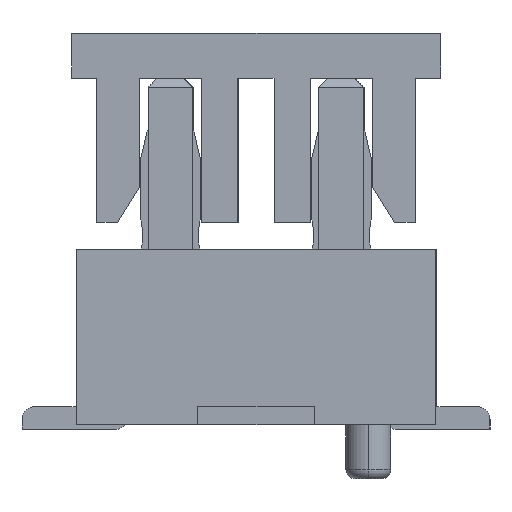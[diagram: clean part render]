
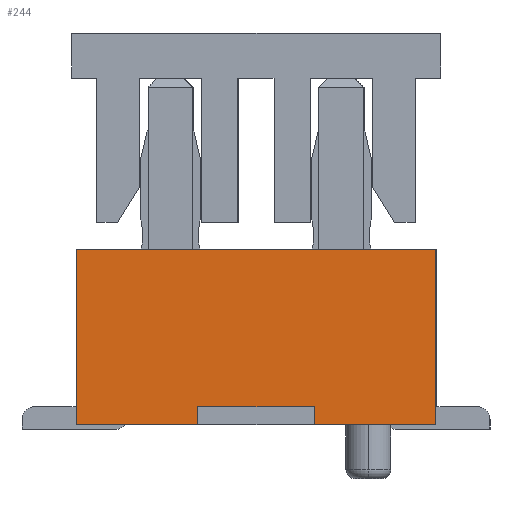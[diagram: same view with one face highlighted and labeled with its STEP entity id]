
A CAD part, left-side view. The second image highlights one B-rep face of the part: STEP entity #244.
In plain terms, the highlighted planar face has unit normal (-1, 0, 0).
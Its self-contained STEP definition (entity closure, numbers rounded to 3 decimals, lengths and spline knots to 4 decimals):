
#173=CARTESIAN_POINT('Axis2P3D Location',(-8.85,0.,0.)) ;
#178=CARTESIAN_POINT('Line Origine',(-8.85,0.65,0.1)) ;
#182=CARTESIAN_POINT('Vertex',(-8.85,0.65,0.)) ;
#184=CARTESIAN_POINT('Vertex',(-8.85,0.65,0.2)) ;
#187=CARTESIAN_POINT('Line Origine',(-8.85,0.,0.2)) ;
#191=CARTESIAN_POINT('Vertex',(-8.85,-0.65,0.2)) ;
#194=CARTESIAN_POINT('Line Origine',(-8.85,-0.65,0.1)) ;
#198=CARTESIAN_POINT('Vertex',(-8.85,-0.65,0.)) ;
#201=CARTESIAN_POINT('Line Origine',(-8.85,-1.325,0.)) ;
#205=CARTESIAN_POINT('Vertex',(-8.85,-2.,0.)) ;
#208=CARTESIAN_POINT('Line Origine',(-8.85,-2.,0.975)) ;
#212=CARTESIAN_POINT('Vertex',(-8.85,-2.,1.95)) ;
#215=CARTESIAN_POINT('Line Origine',(-8.85,0.,1.95)) ;
#219=CARTESIAN_POINT('Vertex',(-8.85,2.,1.95)) ;
#222=CARTESIAN_POINT('Line Origine',(-8.85,2.,0.975)) ;
#226=CARTESIAN_POINT('Vertex',(-8.85,2.,0.)) ;
#229=CARTESIAN_POINT('Line Origine',(-8.85,1.325,0.)) ;
#174=DIRECTION('Axis2P3D Direction',(1.,0.,0.)) ;
#175=DIRECTION('Axis2P3D XDirection',(0.,1.,0.)) ;
#179=DIRECTION('Vector Direction',(0.,0.,1.)) ;
#188=DIRECTION('Vector Direction',(0.,1.,0.)) ;
#195=DIRECTION('Vector Direction',(0.,0.,1.)) ;
#202=DIRECTION('Vector Direction',(0.,1.,0.)) ;
#209=DIRECTION('Vector Direction',(0.,0.,-1.)) ;
#216=DIRECTION('Vector Direction',(0.,1.,0.)) ;
#223=DIRECTION('Vector Direction',(0.,0.,-1.)) ;
#230=DIRECTION('Vector Direction',(0.,1.,0.)) ;
#176=AXIS2_PLACEMENT_3D('Plane Axis2P3D',#173,#174,#175) ;
#235=ORIENTED_EDGE('',*,*,#186,.T.) ;
#236=ORIENTED_EDGE('',*,*,#193,.F.) ;
#237=ORIENTED_EDGE('',*,*,#200,.F.) ;
#238=ORIENTED_EDGE('',*,*,#207,.F.) ;
#239=ORIENTED_EDGE('',*,*,#214,.F.) ;
#240=ORIENTED_EDGE('',*,*,#221,.F.) ;
#241=ORIENTED_EDGE('',*,*,#228,.F.) ;
#242=ORIENTED_EDGE('',*,*,#233,.F.) ;
#180=VECTOR('Line Direction',#179,1.) ;
#189=VECTOR('Line Direction',#188,1.) ;
#196=VECTOR('Line Direction',#195,1.) ;
#203=VECTOR('Line Direction',#202,1.) ;
#210=VECTOR('Line Direction',#209,1.) ;
#217=VECTOR('Line Direction',#216,1.) ;
#224=VECTOR('Line Direction',#223,1.) ;
#231=VECTOR('Line Direction',#230,1.) ;
#244=ADVANCED_FACE('\X2\96F64EF651E04F554F53\X0\',(#243),#177,.F.) ;
#186=EDGE_CURVE('',#183,#185,#181,.T.) ;
#193=EDGE_CURVE('',#192,#185,#190,.T.) ;
#200=EDGE_CURVE('',#199,#192,#197,.T.) ;
#207=EDGE_CURVE('',#206,#199,#204,.T.) ;
#214=EDGE_CURVE('',#213,#206,#211,.T.) ;
#221=EDGE_CURVE('',#220,#213,#218,.F.) ;
#228=EDGE_CURVE('',#227,#220,#225,.F.) ;
#233=EDGE_CURVE('',#183,#227,#232,.T.) ;
#234=EDGE_LOOP('',(#235,#236,#237,#238,#239,#240,#241,#242)) ;
#243=FACE_OUTER_BOUND('',#234,.T.) ;
#181=LINE('Line',#178,#180) ;
#190=LINE('Line',#187,#189) ;
#197=LINE('Line',#194,#196) ;
#204=LINE('Line',#201,#203) ;
#211=LINE('Line',#208,#210) ;
#218=LINE('Line',#215,#217) ;
#225=LINE('Line',#222,#224) ;
#232=LINE('Line',#229,#231) ;
#177=PLANE('Plane',#176) ;
#183=VERTEX_POINT('',#182) ;
#185=VERTEX_POINT('',#184) ;
#192=VERTEX_POINT('',#191) ;
#199=VERTEX_POINT('',#198) ;
#206=VERTEX_POINT('',#205) ;
#213=VERTEX_POINT('',#212) ;
#220=VERTEX_POINT('',#219) ;
#227=VERTEX_POINT('',#226) ;
